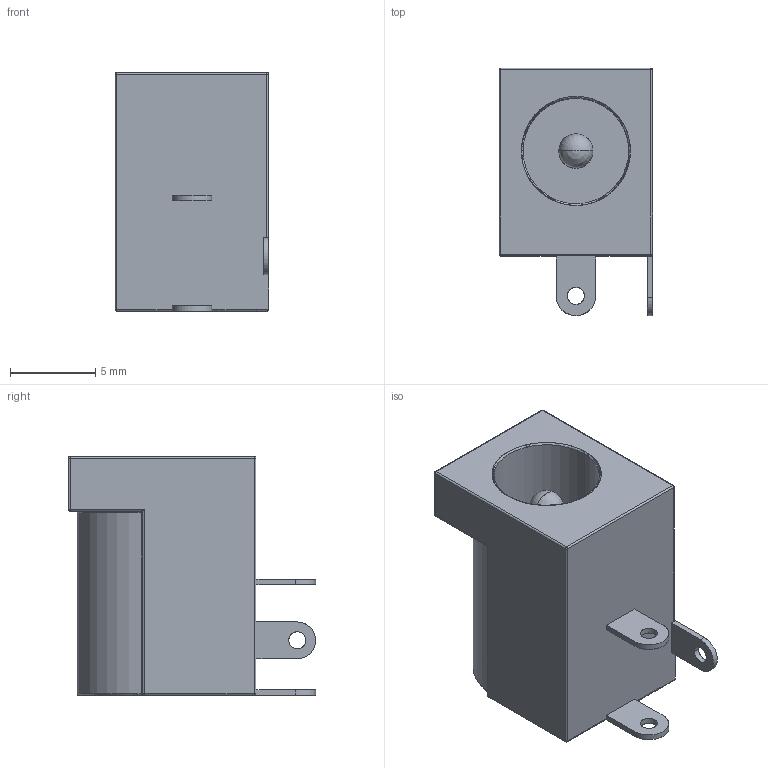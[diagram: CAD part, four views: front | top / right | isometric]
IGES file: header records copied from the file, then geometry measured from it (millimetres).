
Start section: SolidWorks IGES file using analytic representation for surfaces
Global section: file name: C:\Users\Husain\Zoho Docs\CG Trader Files\DC Jack\DC Jack.IGS; native system: SolidWorks 2014; preprocessor: SolidWorks 2014; author: Husain; date: 180429.104822; units: millimetre
Bounding box: 9.01 x 14.5 x 14.01 mm (x, y, z)
Surface area: 1072.4 mm2 (no closed solid volume)
Topology: 0 solids, 0 shells, 89 faces, 822 edges, 811 vertices
Faces by surface type: revolution 53, bspline 36
